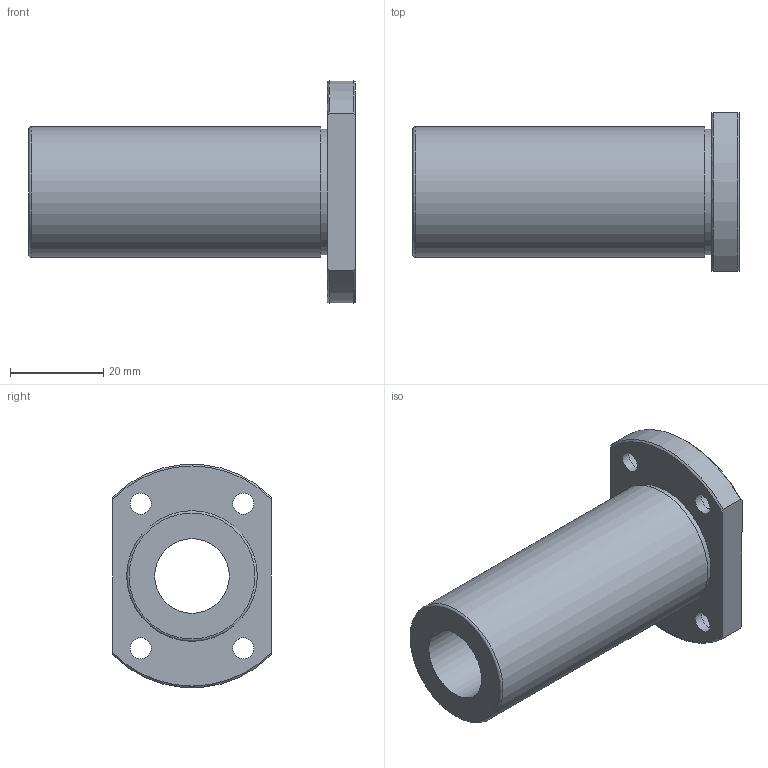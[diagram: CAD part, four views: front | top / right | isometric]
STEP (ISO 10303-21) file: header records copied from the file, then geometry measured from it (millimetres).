
FILE_DESCRIPTION(('STEP AP203'),'1');
FILE_NAME('//192.168.1.1/share/s-4 技術開発/s-4-4_CAD/s-4-4-3_見直し済み/002 修正済み/NFEO-VL(済)/NFEO-VL_TOP/NFEO-16VLUU.step','2022-03-08T01:32:34',(' '),(' '),'Spatial InterOp 3D',' ',' ');
FILE_SCHEMA(('CONFIG_CONTROL_DESIGN'));
Length unit declared in the file: millimetre
Products named in the file (1): 1
Bounding box: 70 x 34 x 47.82 mm (x, y, z)
Volume: 33307.8 mm3; surface area: 12965.1 mm2
Topology: 1 solids, 1 shells, 28 faces, 59 edges, 39 vertices
Faces by surface type: cylinder 13, plane 10, cone 4, torus 1
Full cylindrical faces by diameter (mm): 4.5 x4, 7.5 x4, 16 x1, 27 x1, 28 x1
Entity records: 778 total; most frequent: CARTESIAN_POINT 139, DIRECTION 128, ORIENTED_EDGE 94, AXIS2_PLACEMENT_3D 60, EDGE_LOOP 56, EDGE_CURVE 47, FACE_OUTER_BOUND 40, VERTEX_POINT 39
